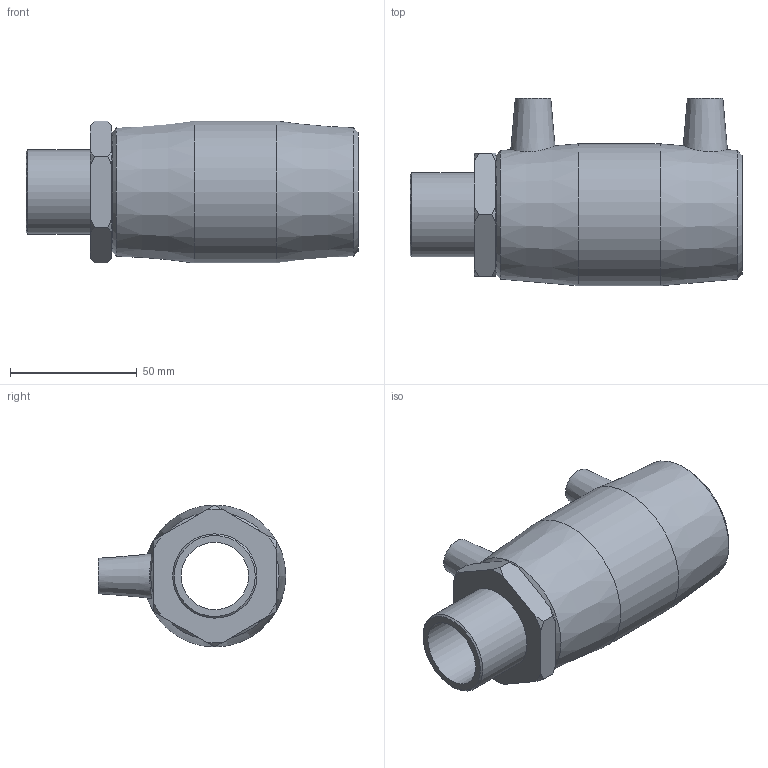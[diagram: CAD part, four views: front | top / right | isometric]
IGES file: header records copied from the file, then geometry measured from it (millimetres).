
Global section: file name: 492104040010.ipt; native system: Autodesk Inventor 2015; preprocessor: unknown; author: KIM; date: 20200202.122310; units: millimetre
Bounding box: 131 x 74 x 56 mm (x, y, z)
Volume: 155966.8 mm3; surface area: 43023.1 mm2
Topology: 1 solids, 2 shells, 54 faces, 129 edges, 88 vertices
Faces by surface type: plane 21, cone 19, revolution 8, cylinder 6
Full cylindrical faces by diameter (mm): 4 x2, 33.249 x1, 40 x2, 56 x1
